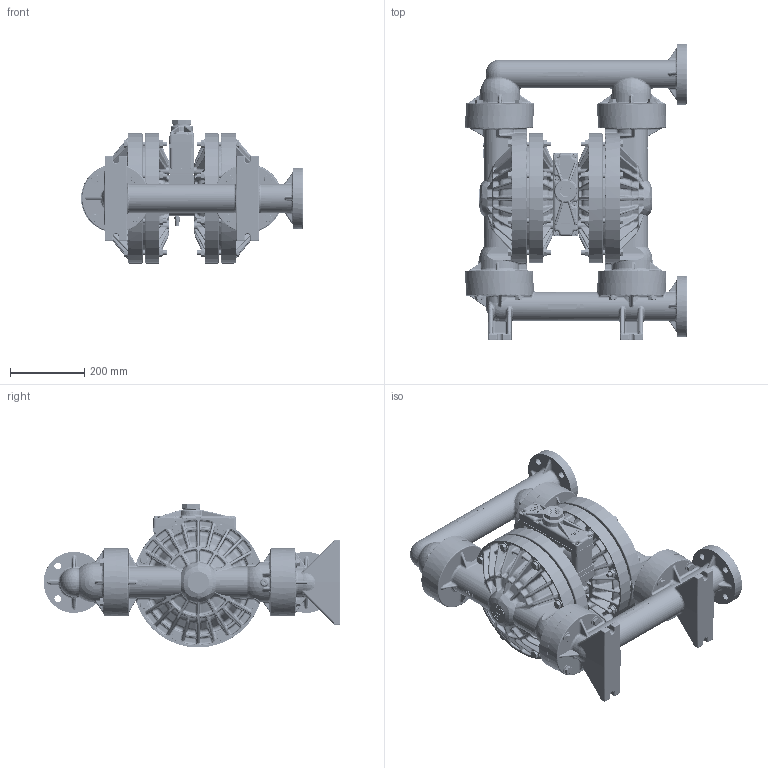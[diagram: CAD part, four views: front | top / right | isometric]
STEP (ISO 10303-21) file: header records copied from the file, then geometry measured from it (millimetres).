
FILE_DESCRIPTION (( 'STEP AP203' ), '1' );
FILE_NAME ('PS800_ADV_PVDF_DIN.STEP', '2022-06-14T05:24:55', ( '' ), ( '' ), 'SwSTEP 2.0', 'SolidWorks 2019', '' );
FILE_SCHEMA (( 'CONFIG_CONTROL_DESIGN' ));
Products named in the file (1): PS800_ADV_PVDF_DIN
Bounding box: 599.63 x 802 x 387.42 mm (x, y, z)
Volume: 40283917 mm3; surface area: 2503429.3 mm2
Topology: 1 solids, 1 shells, 16480 faces, 39258 edges, 23192 vertices
Faces by surface type: bspline 5895, plane 4850, cylinder 1895, torus 1388, cone 1372, sphere 1080
Entity records: 908656 total; most frequent: CARTESIAN_POINT 572639, ORIENTED_EDGE 78300, DIRECTION 58939, EDGE_CURVE 39150, VERTEX_POINT 23136, AXIS2_PLACEMENT_3D 22879, EDGE_LOOP 17026, ADVANCED_FACE 16475
